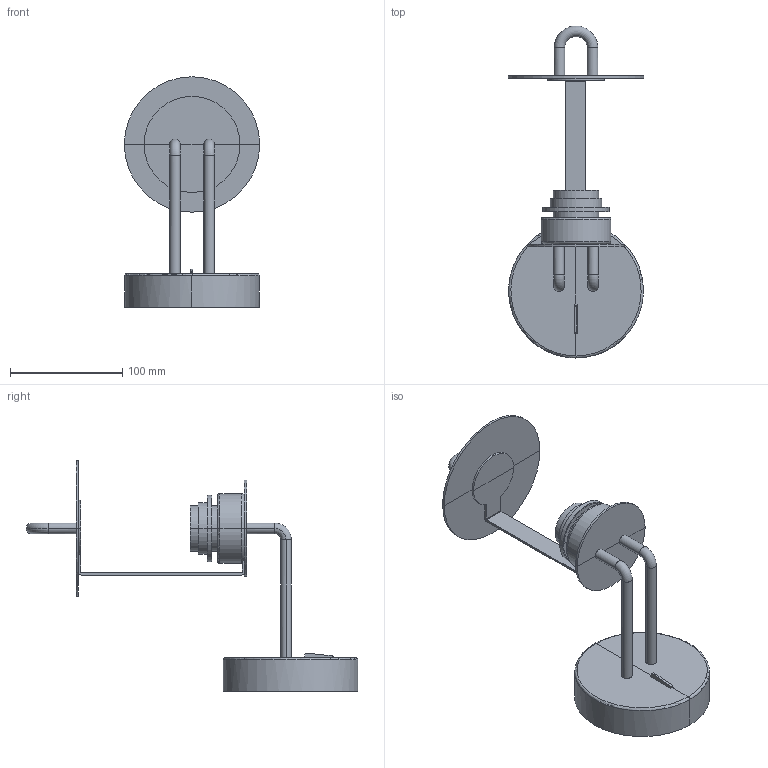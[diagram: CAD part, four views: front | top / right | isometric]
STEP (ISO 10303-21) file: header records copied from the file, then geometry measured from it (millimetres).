
FILE_DESCRIPTION(/* description */ (''),/* implementation_level */ '2;1');
FILE_NAME(/* name */ 'C:\Users\francosartori\Documents\Modelos\01_Digitalizados\0_MONTREAL\03_Publicación\24030.stp',/* time_stamp */ '2020-06-10T15:21:20+02:00',/* author */ ('FrancoSartori'),/* organization */ (''),/* preprocessor_version */ 'ST-DEVELOPER v18.1',/* originating_system */ 'AutoCAD Mechanical',/* authorisation */ '');
FILE_SCHEMA (('AUTOMOTIVE_DESIGN { 1 0 10303 214 3 1 1 }'));
Length unit declared in the file: millimetre
Products named in the file (2): Product; 24030_24031_MONTREAL - MONTREAL-444875-Export
Assembly tree (1 placements, depth 2):
  Product
    24030_24031_MONTREAL - MONTREAL-444875-Export
Bounding box: 120.54 x 295.46 x 205.28 mm (x, y, z)
Volume: 132958.6 mm3; surface area: 139520.8 mm2
Topology: 8 solids, 9 shells, 164 faces, 376 edges, 222 vertices
Faces by surface type: plane 77, cylinder 61, torus 24, cone 2
Entity records: 5935 total; most frequent: CARTESIAN_POINT 2290, ORIENTED_EDGE 744, DIRECTION 726, EDGE_CURVE 376, AXIS2_PLACEMENT_3D 267, VERTEX_POINT 222, LINE 192, VECTOR 192
